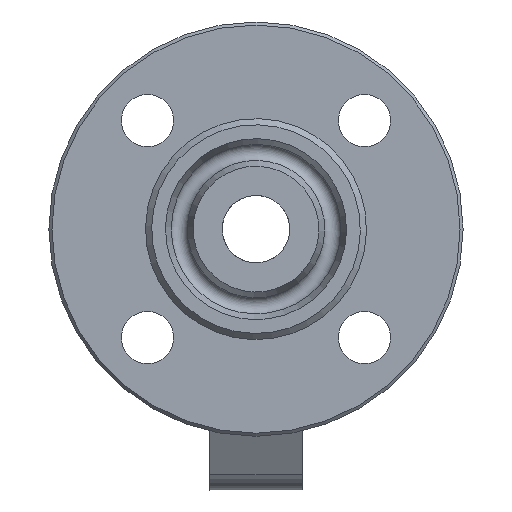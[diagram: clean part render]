
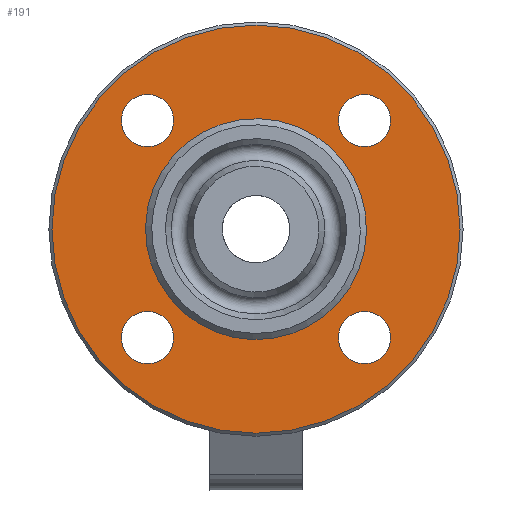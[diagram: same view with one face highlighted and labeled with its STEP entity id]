
A CAD part, left-side view. The second image highlights one B-rep face of the part: STEP entity #191.
In plain terms, the highlighted planar face has unit normal (-1, 0, 0).
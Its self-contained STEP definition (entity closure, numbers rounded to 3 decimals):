
#191=ADVANCED_FACE('',(#1548,#1550,#1552,#1554,#1556,#1558),#1560,.T.);
#1548=FACE_BOUND('',#1549,.T.);
#1549=EDGE_LOOP('',(#2449));
#1550=FACE_BOUND('',#1551,.T.);
#1551=EDGE_LOOP('',(#2450));
#1552=FACE_BOUND('',#1553,.T.);
#1553=EDGE_LOOP('',(#2451));
#1554=FACE_BOUND('',#1555,.T.);
#1555=EDGE_LOOP('',(#2452));
#1556=FACE_BOUND('',#1557,.T.);
#1557=EDGE_LOOP('',(#2453));
#1558=FACE_OUTER_BOUND('',#1559,.T.);
#1559=EDGE_LOOP('',(#2454));
#1560=PLANE('',#1561);
#1561=AXIS2_PLACEMENT_3D('',#1562,#1563,#1564);
#1562=CARTESIAN_POINT('',(-64.,0.,0.));
#1563=DIRECTION('',(-1.,0.,0.));
#1564=DIRECTION('',(0.,1.,0.));
#2449=ORIENTED_EDGE('',*,*,#3256,.T.);
#2450=ORIENTED_EDGE('',*,*,#3259,.T.);
#2451=ORIENTED_EDGE('',*,*,#3261,.T.);
#2452=ORIENTED_EDGE('',*,*,#3263,.T.);
#2453=ORIENTED_EDGE('',*,*,#3272,.T.);
#2454=ORIENTED_EDGE('',*,*,#3273,.F.);
#3256=EDGE_CURVE('',#3684,#3684,#3685,.F.);
#3259=EDGE_CURVE('',#3687,#3687,#3689,.F.);
#3261=EDGE_CURVE('',#3690,#3690,#3692,.F.);
#3263=EDGE_CURVE('',#3693,#3693,#3695,.F.);
#3272=EDGE_CURVE('',#3708,#3708,#3709,.T.);
#3273=EDGE_CURVE('',#3710,#3710,#3711,.T.);
#3684=VERTEX_POINT('',#5179);
#3685=CIRCLE('',#5180,8.5);
#3687=VERTEX_POINT('',#5187);
#3689=CIRCLE('',#5191,8.5);
#3690=VERTEX_POINT('',#5195);
#3692=CIRCLE('',#5199,8.5);
#3693=VERTEX_POINT('',#5203);
#3695=CIRCLE('',#5207,8.5);
#3708=VERTEX_POINT('',#5245);
#3709=CIRCLE('',#5246,36.);
#3710=VERTEX_POINT('',#5250);
#3711=CIRCLE('',#5251,66.5);
#5179=CARTESIAN_POINT('',(-64.,-35.355,-43.855));
#5180=AXIS2_PLACEMENT_3D('',#5181,#5182,#5183);
#5181=CARTESIAN_POINT('',(-64.,-35.355,-35.355));
#5182=DIRECTION('',(-1.,0.,0.));
#5183=DIRECTION('',(0.,0.,-1.));
#5187=CARTESIAN_POINT('',(-64.,-43.855,35.355));
#5191=AXIS2_PLACEMENT_3D('',#5192,#5193,#5194);
#5192=CARTESIAN_POINT('',(-64.,-35.355,35.355));
#5193=DIRECTION('',(-1.,0.,0.));
#5194=DIRECTION('',(0.,-1.,-0.));
#5195=CARTESIAN_POINT('',(-64.,35.355,43.855));
#5199=AXIS2_PLACEMENT_3D('',#5200,#5201,#5202);
#5200=CARTESIAN_POINT('',(-64.,35.355,35.355));
#5201=DIRECTION('',(-1.,0.,0.));
#5202=DIRECTION('',(0.,0.,1.));
#5203=CARTESIAN_POINT('',(-64.,43.855,-35.355));
#5207=AXIS2_PLACEMENT_3D('',#5208,#5209,#5210);
#5208=CARTESIAN_POINT('',(-64.,35.355,-35.355));
#5209=DIRECTION('',(-1.,0.,0.));
#5210=DIRECTION('',(0.,1.,0.));
#5245=CARTESIAN_POINT('',(-64.,35.612,-5.271));
#5246=AXIS2_PLACEMENT_3D('',#5247,#5248,#5249);
#5247=CARTESIAN_POINT('',(-64.,0.,0.));
#5248=DIRECTION('',(1.,0.,0.));
#5249=DIRECTION('',(0.,0.989,-0.146));
#5250=CARTESIAN_POINT('',(-64.,66.5,0.));
#5251=AXIS2_PLACEMENT_3D('',#5252,#5253,#5254);
#5252=CARTESIAN_POINT('',(-64.,0.,0.));
#5253=DIRECTION('',(1.,0.,0.));
#5254=DIRECTION('',(0.,1.,0.));
